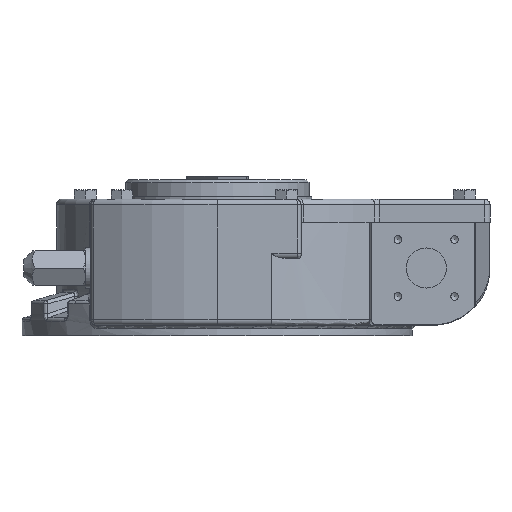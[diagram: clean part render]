
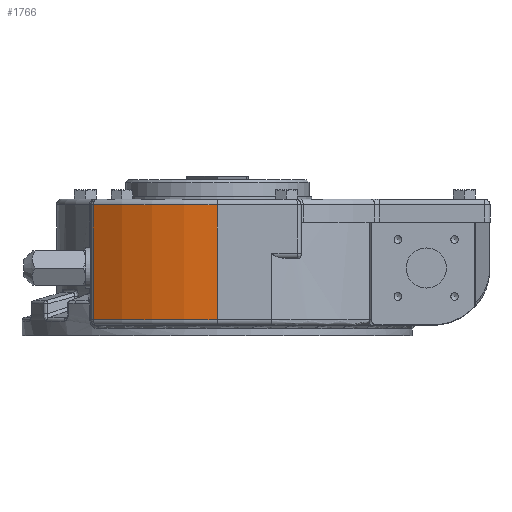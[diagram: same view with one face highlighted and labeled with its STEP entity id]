
A CAD part, left-side view. The second image highlights one B-rep face of the part: STEP entity #1766.
In plain terms, the highlighted cylindrical face has radius 185 mm (diameter 370 mm), a partial arc.
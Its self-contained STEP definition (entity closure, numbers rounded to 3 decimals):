
#1766 = ADVANCED_FACE( '', ( #5213 ), #5214, .T. );
#5213 = FACE_OUTER_BOUND( '', #10688, .T. );
#5214 = CYLINDRICAL_SURFACE( '', #10689, 185. );
#10688 = EDGE_LOOP( '', ( #23363, #23364, #23365, #23366 ) );
#10689 = AXIS2_PLACEMENT_3D( '', #23367, #23368, #23369 );
#23363 = ORIENTED_EDGE( '', *, *, #38739, .T. );
#23364 = ORIENTED_EDGE( '', *, *, #38740, .T. );
#23365 = ORIENTED_EDGE( '', *, *, #38741, .F. );
#23366 = ORIENTED_EDGE( '', *, *, #38742, .T. );
#23367 = CARTESIAN_POINT( '', ( 0., 0., 105. ) );
#23368 = DIRECTION( '', ( 0., 0., 1. ) );
#23369 = DIRECTION( '', ( -1., 0., 0. ) );
#38739 = EDGE_CURVE( '', #44559, #44560, #44561, .T. );
#38740 = EDGE_CURVE( '', #44560, #44562, #44563, .F. );
#38741 = EDGE_CURVE( '', #44564, #44562, #44565, .T. );
#38742 = EDGE_CURVE( '', #44564, #44559, #44566, .F. );
#44559 = VERTEX_POINT( '', #53119 );
#44560 = VERTEX_POINT( '', #53120 );
#44561 = LINE( '', #53121, #53122 );
#44562 = VERTEX_POINT( '', #53123 );
#44563 = CIRCLE( '', #53124, 185. );
#44564 = VERTEX_POINT( '', #53125 );
#44565 = LINE( '', #53126, #53127 );
#44566 = CIRCLE( '', #53128, 185. );
#53119 = CARTESIAN_POINT( '', ( -150.263, 107.917, 117. ) );
#53120 = CARTESIAN_POINT( '', ( -150.263, 107.917, 17. ) );
#53121 = CARTESIAN_POINT( '', ( -150.263, 107.917, 105. ) );
#53122 = VECTOR( '', #73635, 1000. );
#53123 = CARTESIAN_POINT( '', ( -185., 0., 17. ) );
#53124 = AXIS2_PLACEMENT_3D( '', #73636, #73637, #73638 );
#53125 = CARTESIAN_POINT( '', ( -185., 0., 117. ) );
#53126 = CARTESIAN_POINT( '', ( -185., 0., 105. ) );
#53127 = VECTOR( '', #73639, 1000. );
#53128 = AXIS2_PLACEMENT_3D( '', #73640, #73641, #73642 );
#73635 = DIRECTION( '', ( 0., 0., -1. ) );
#73636 = CARTESIAN_POINT( '', ( 0., 0., 17. ) );
#73637 = DIRECTION( '', ( 0., 0., -1. ) );
#73638 = DIRECTION( '', ( -1., 0., 0. ) );
#73639 = DIRECTION( '', ( 0., 0., -1. ) );
#73640 = CARTESIAN_POINT( '', ( 0., 0., 117. ) );
#73641 = DIRECTION( '', ( 0., 0., 1. ) );
#73642 = DIRECTION( '', ( 1., 0., 0. ) );
